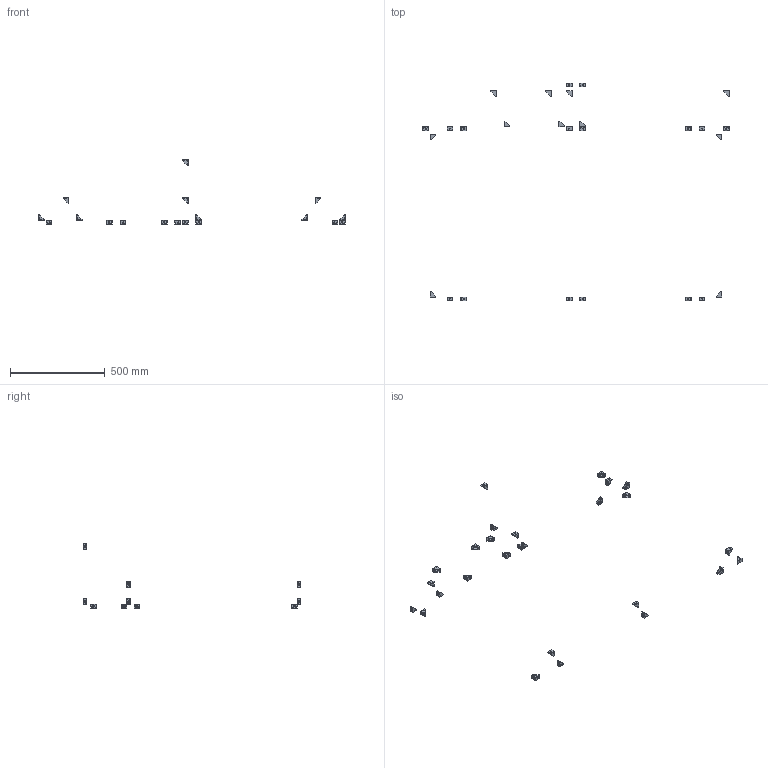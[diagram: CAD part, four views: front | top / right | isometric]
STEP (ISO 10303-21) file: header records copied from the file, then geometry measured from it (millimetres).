
FILE_DESCRIPTION(/* description */ (''),/* implementation_level */ '2;1');
FILE_NAME(/* name */ '1.frame-bottom#1.3#HBLFSN5',/* time_stamp */ '2014-12-01T20:10:51+01:00',/* author */ (''),/* organization */ (''),/* preprocessor_version */ 'ST-DEVELOPER v14',/* originating_system */ '',/* authorisation */ '');
FILE_SCHEMA (('AUTOMOTIVE_DESIGN'));
Length unit declared in the file: millimetre
Products named in the file (2): Document; angle bracket, single
Assembly tree (7 placements, depth 2):
  Document
    angle bracket, single  x7
Bounding box: 1620 x 1150 x 340 mm (x, y, z)
Volume: 171594.2 mm3; surface area: 113924.8 mm2
Topology: 27 solids, 27 shells, 486 faces, 1188 edges, 756 vertices
Faces by surface type: plane 324, bspline 162
Entity records: 26578 total; most frequent: CARTESIAN_POINT 13765, B_SPLINE_CURVE_WITH_KNOTS 2394, ORIENTED_EDGE 1848, PCURVE 1848, DEFINITIONAL_REPRESENTATION 1848, SURFACE_CURVE 924, EDGE_CURVE 924, VERTEX_POINT 588
